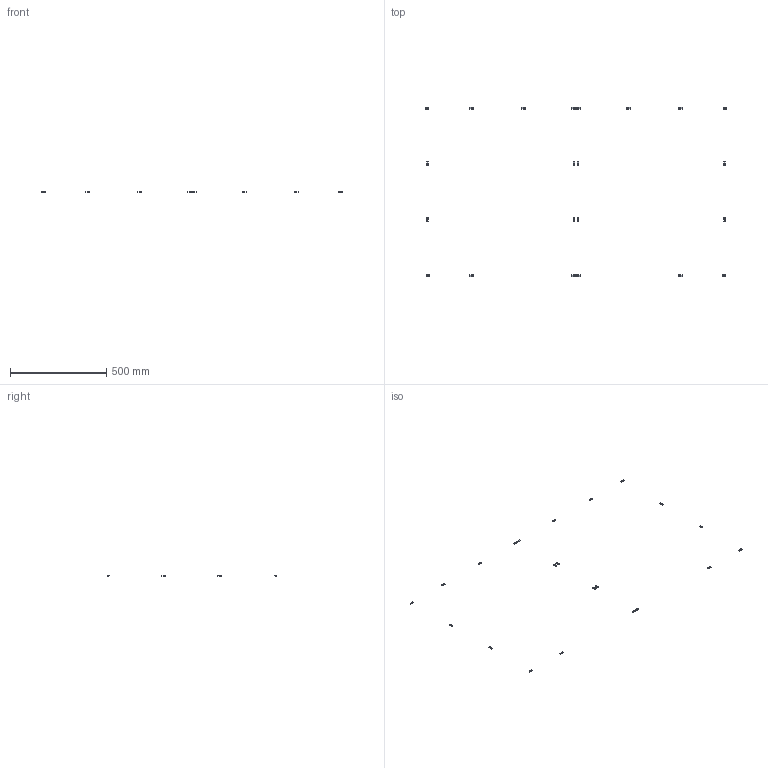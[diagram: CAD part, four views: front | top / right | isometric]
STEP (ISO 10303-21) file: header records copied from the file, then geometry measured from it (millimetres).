
FILE_DESCRIPTION(/* description */ (''),/* implementation_level */ '2;1');
FILE_NAME(/* name */ '13.door-panels#13.2#HNTPZ5-5',/* time_stamp */ '2014-12-01T20:19:48+01:00',/* author */ (''),/* organization */ (''),/* preprocessor_version */ 'ST-DEVELOPER v14',/* originating_system */ '',/* authorisation */ '');
FILE_SCHEMA (('AUTOMOTIVE_DESIGN'));
Length unit declared in the file: millimetre
Products named in the file (2): Document; nut tslot, post, M5
Assembly tree (11 placements, depth 2):
  Document
    nut tslot, post, M5  x11
Bounding box: 1566 x 878.3 x 3.8 mm (x, y, z)
Volume: 6930.5 mm3; surface area: 9229.6 mm2
Topology: 22 solids, 22 shells, 286 faces, 792 edges, 528 vertices
Faces by surface type: plane 242, bspline 44
Entity records: 11553 total; most frequent: CARTESIAN_POINT 5486, B_SPLINE_CURVE_WITH_KNOTS 1200, ORIENTED_EDGE 864, PCURVE 864, DEFINITIONAL_REPRESENTATION 864, SURFACE_CURVE 432, EDGE_CURVE 432, VERTEX_POINT 288
